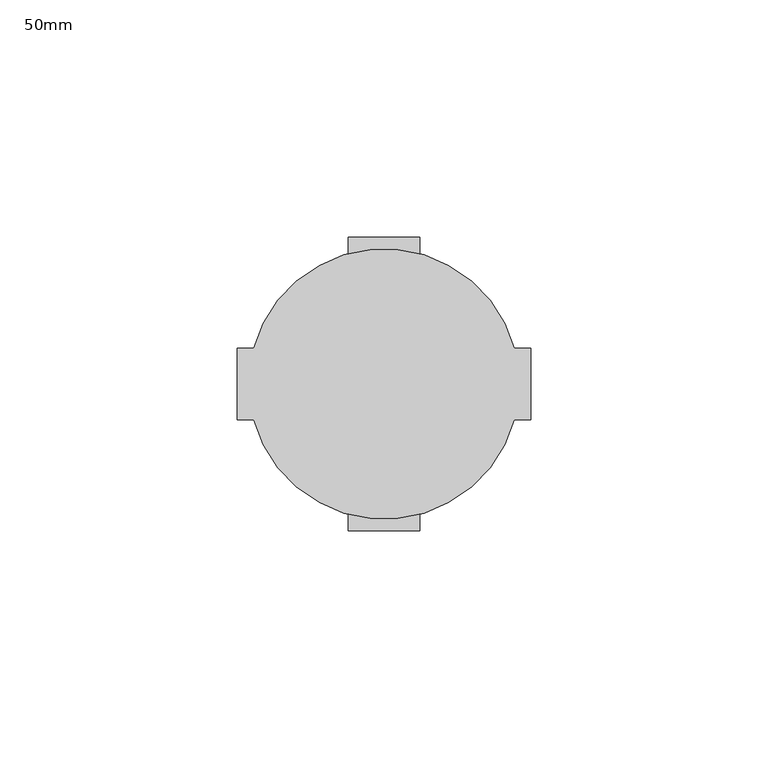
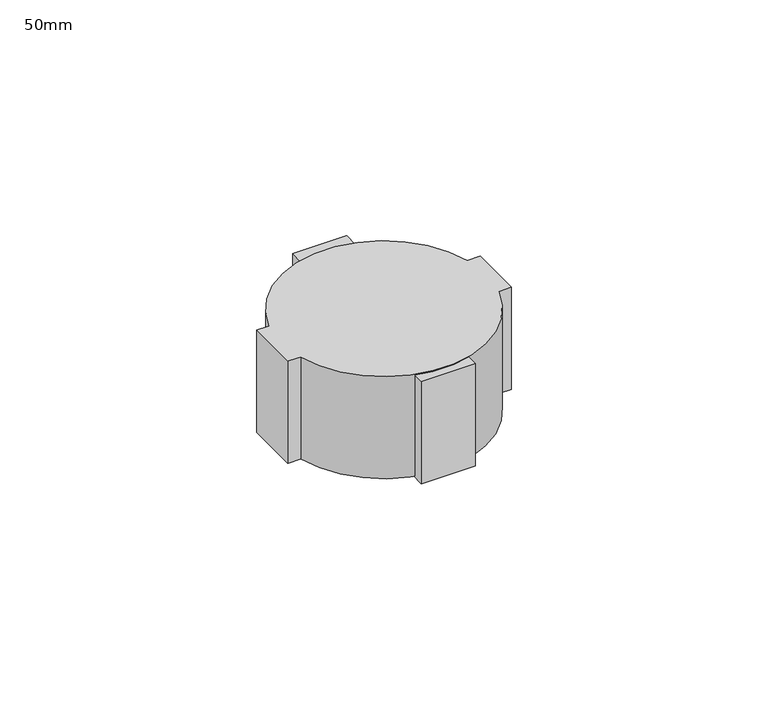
"""IFC4 building model written with IfcOpenShell, lengths in millimetres: pipe fitting geometry, AmancoWavin_Accesoriosdetubería_AS+_Abrazadera : 50mm."""

from ifc_helpers import new_model, si_unit, point, frame, origin, origin_2d, place, context, project, spatial, polyline, circle_curve, trimmed, segment, composite_curve, outline, extrude, source, transform, mapped, element, save


def pipe_fitting_50mm_5bbf13a5(model_context):
    return source(origin(), model_context, "Body", "SweptSolid", [
        extrude(outline(composite_curve([segment(polyline([(31.0, -7.5), (27.4954542, -7.5)]), True, "CONTINUOUS"), segment(trimmed(circle_curve(origin_2d(), 28.5), [point((27.4954542, -7.5))], [point((-27.4954542, -7.5))], False, "CARTESIAN"), True, "CONTINUOUS"), segment(polyline([(-27.4954542, -7.5), (-31.0, -7.5), (-31.0, 7.5), (-27.4954542, 7.5)]), True, "CONTINUOUS"), segment(trimmed(circle_curve(origin_2d(), 28.5), [point((-27.4954542, 7.5))], [point((27.4954542, 7.5))], False, "CARTESIAN"), True, "CONTINUOUS"), segment(polyline([(27.4954542, 7.5), (31.0, 7.5), (31.0, -7.5)]), True, "CONTINUOUS")], self_intersect=False)), frame((0.0, 0.0, -15.0), z_axis=(0.0, 0.0, 1.0), x_axis=(1.0, 0.0, 0.0)), (0.0, 0.0, 1.0), 30.0),
        extrude(outline(polyline([(-7.5, -31.0), (-7.5, -27.0), (7.5, -27.0), (7.5, -31.0), (-7.5, -31.0)])), frame((0.0, 0.0, -15.0), z_axis=(0.0, 0.0, 1.0), x_axis=(1.0, 0.0, 0.0)), (0.0, 0.0, 1.0), 30.0),
        extrude(outline(polyline([(-7.5, 31.0), (7.5, 31.0), (7.5, 27.0), (-7.5, 27.0), (-7.5, 31.0)])), frame((0.0, 0.0, -15.0), z_axis=(0.0, 0.0, 1.0), x_axis=(1.0, 0.0, 0.0)), (0.0, 0.0, 1.0), 30.0),
    ])


if __name__ == "__main__":
    model = new_model("IFC4")
    model_context = context("Model", 3, world=origin())
    ifc_project = project(units=[si_unit("LENGTHUNIT", "METRE", prefix="MILLI")], contexts=[model_context])
    site = spatial("IfcSite", under=ifc_project)
    building = spatial("IfcBuilding", under=site)
    placement = place(None, origin())
    pipe_fitting_50mm_shape = pipe_fitting_50mm_5bbf13a5(model_context)
    element("IfcPipeFitting", 1, ObjectType="AmancoWavin_Accesoriosdetubería_AS+_Abrazadera : 50mm", at=placement, inside=building, context=model_context, shape_type="MappedRepresentation", body=[
        mapped(pipe_fitting_50mm_shape, transform((0.0, 0.0, 0.0), x_axis=(1.0, 0.0, 0.0), y_axis=(0.0, 1.0, 0.0), z_axis=(0.0, 0.0, 1.0))),
    ])
    save(model, "model.ifc")
